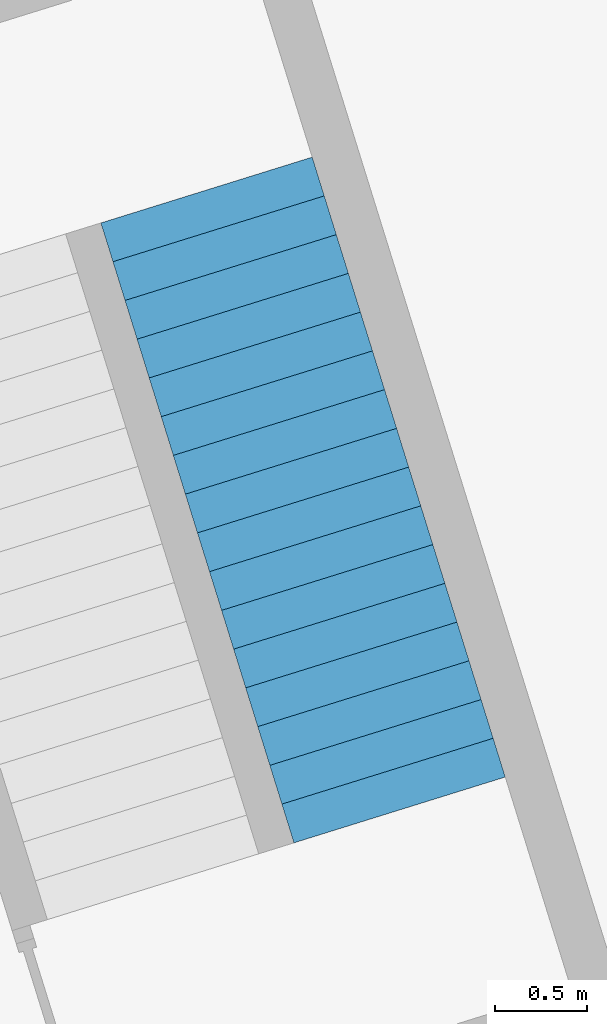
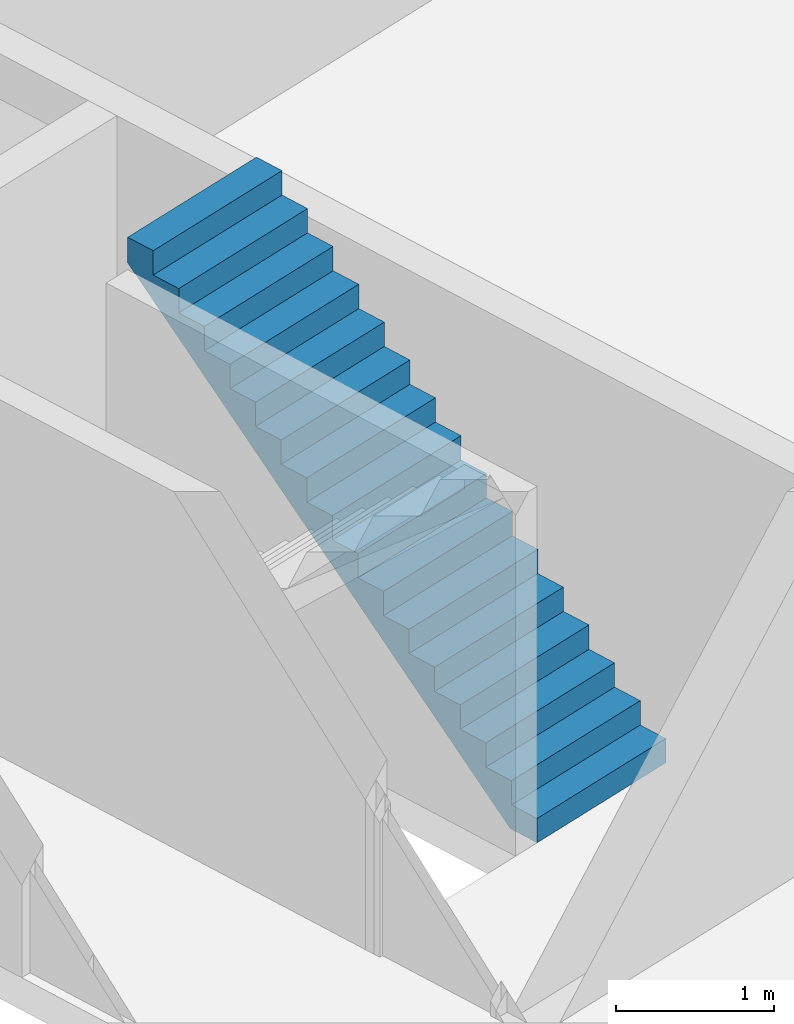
# One storey, part 4 of 4: 1 stair flight, 1 element without a shape of its own.
"""IFC4 building model written with IfcOpenShell, lengths in metres."""

from ifc_helpers import new_model, entity, si_unit, converted_unit, direction, frame, origin, place, context, subcontext, project, spatial, polygons, material, type_object, element, aggregate, save


model = new_model("IFC4")

# Units and contexts
model_context = context("Model", 3, precision=1e-05, world=origin(), true_north=direction((6.12323399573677e-17, 1.0)))
body_context = subcontext(model_context, "Body", "Model", "MODEL_VIEW")
ifc_project = project(units=[si_unit("LENGTHUNIT", "METRE"), si_unit("AREAUNIT", "SQUARE_METRE"), si_unit("VOLUMEUNIT", "CUBIC_METRE"), converted_unit("PLANEANGLEUNIT", "DEGREE", entity("IfcPlaneAngleMeasure", 0.0174532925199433), si_unit("PLANEANGLEUNIT", "RADIAN"), dimensions=[0, 0, 0, 0, 0, 0, 0])], contexts=[model_context])

# Site, building, storey
site_placement = place(None, frame((13.1347999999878, 11.9886000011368, 0.0), z_axis=(0.0, 0.0, 1.0), x_axis=(0.954770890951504, 0.297342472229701, 0.0)))
site = spatial("IfcSite", under=ifc_project, at=site_placement, Name="Schiehaven", CompositionType="ELEMENT")
building_placement = place(site_placement, origin())
building = spatial("IfcBuilding", under=site, at=building_placement, Name="VORM huis", CompositionType="ELEMENT")
storey_placement = place(building_placement, frame((0.0, 0.0, 6.9)))
storey = spatial("IfcBuildingStorey", under=building, at=storey_placement, Name="02 tweede verdieping", CompositionType="ELEMENT", Elevation=6.9)

# Stair, stair flight
stair_type = type_object("IfcStairType", Name="Trap", PredefinedType="STRAIGHT_RUN_STAIR")
stair_placement = place(storey_placement, origin())
stair = element("IfcStair", 1, at=stair_placement, inside=storey, type_object=stair_type, Name="Hoofdtrap", ObjectType="Trap", PredefinedType="STRAIGHT_RUN_STAIR")
ifc_material = material(Name="beton_gewapend_prefab-element", Category="Miscellaneous")
stair_flight_type = type_object("IfcStairFlightType", Name="Monolithic Run:NLRS_24_STRR_trap-beton prefab-monolithisch-recht_gen_rsf", PredefinedType="STRAIGHT")
stair_flight_placement = place(stair_placement, frame((18.6750000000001, 15.29, 0.0)))
stair_flight = element("IfcStairFlight", 2, at=stair_flight_placement, type_object=stair_flight_type, material=ifc_material, Name="Hoofdtrap Run 1", ObjectType="Monolithic Run:NLRS_24_STRR_trap-beton prefab-monolithisch-recht_gen_rsf", PredefinedType="STRAIGHT", context=body_context, shape_type="Tessellation", body=[
    polygons([(3.5527136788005e-15, 0.219999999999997, 0.1875), (0.0, -1.77635683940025e-15, 0.1875), (1.2, -1.77635683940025e-15, 0.1875), (1.2, 0.219999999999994, 0.1875), (3.5527136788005e-15, 0.220000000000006, 1.77635683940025e-15), (0.0, -1.77635683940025e-15, 1.77635683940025e-15), (1.2, -1.77635683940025e-15, 1.77635683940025e-15), (1.2, 0.219999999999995, 1.77635683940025e-15), (3.5527136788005e-15, 0.44, 0.375000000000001), (0.0, 0.219999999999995, 0.375000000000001), (1.2, 0.219999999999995, 0.375000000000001), (1.2, 0.439999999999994, 0.375000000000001), (3.5527136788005e-15, 0.44, 0.177912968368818), (3.5527136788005e-15, 0.231248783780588, 1.77635683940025e-15), (1.2, 0.231248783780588, 1.77635683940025e-15), (1.2, 0.439999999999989, 0.177912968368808), (3.5527136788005e-15, 0.659999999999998, 0.5625), (3.5527136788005e-15, 0.44, 0.5625), (1.20000000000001, 0.44, 0.5625), (1.20000000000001, 0.659999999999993, 0.5625), (7.105427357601e-15, 0.660000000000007, 0.365412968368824), (1.20000000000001, 0.659999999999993, 0.365412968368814), (3.5527136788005e-15, 0.880000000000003, 0.750000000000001), (3.5527136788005e-15, 0.659999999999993, 0.750000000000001), (1.20000000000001, 0.659999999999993, 0.750000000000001), (1.20000000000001, 0.879999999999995, 0.750000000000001), (7.105427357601e-15, 0.880000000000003, 0.55291296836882), (1.20000000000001, 0.879999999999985, 0.552912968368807), (7.105427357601e-15, 1.1, 0.937500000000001), (7.105427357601e-15, 0.880000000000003, 0.937500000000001), (1.20000000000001, 0.880000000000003, 0.937500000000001), (1.20000000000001, 1.09999999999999, 0.937500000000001), (7.105427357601e-15, 1.10000000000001, 0.740412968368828), (1.20000000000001, 1.1, 0.740412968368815), (7.105427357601e-15, 1.32, 1.125), (7.105427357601e-15, 1.09999999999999, 1.125), (1.20000000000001, 1.09999999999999, 1.125), (1.20000000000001, 1.31999999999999, 1.125), (7.105427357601e-15, 1.32, 0.92791296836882), (1.20000000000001, 1.31999999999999, 0.927912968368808), (1.06581410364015e-14, 1.54, 1.3125), (7.105427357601e-15, 1.32, 1.3125), (1.20000000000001, 1.32, 1.3125), (1.20000000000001, 1.54, 1.3125), (1.06581410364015e-14, 1.54000000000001, 1.11541296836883), (1.20000000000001, 1.54, 1.11541296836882), (1.06581410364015e-14, 1.76, 1.5), (7.105427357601e-15, 1.54, 1.5), (1.20000000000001, 1.54, 1.5), (1.20000000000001, 1.75999999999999, 1.5), (1.06581410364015e-14, 1.76, 1.30291296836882), (1.20000000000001, 1.75999999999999, 1.30291296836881), (1.06581410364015e-14, 1.98, 1.6875), (1.06581410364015e-14, 1.76, 1.6875), (1.20000000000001, 1.76, 1.6875), (1.20000000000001, 1.97999999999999, 1.6875), (1.06581410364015e-14, 1.98000000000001, 1.49041296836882), (1.20000000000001, 1.98, 1.49041296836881), (1.06581410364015e-14, 2.2, 1.875), (1.06581410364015e-14, 1.97999999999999, 1.875), (1.20000000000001, 1.97999999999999, 1.875), (1.20000000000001, 2.19999999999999, 1.875), (1.06581410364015e-14, 2.2, 1.67791296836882), (1.20000000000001, 2.19999999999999, 1.67791296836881), (1.4210854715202e-14, 2.42, 2.0625), (1.06581410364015e-14, 2.2, 2.0625), (1.20000000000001, 2.2, 2.0625), (1.20000000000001, 2.41999999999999, 2.0625), (1.06581410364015e-14, 2.42000000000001, 1.86541296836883), (1.20000000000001, 2.42, 1.86541296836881), (1.4210854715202e-14, 2.64, 2.25), (1.06581410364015e-14, 2.41999999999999, 2.25), (1.20000000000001, 2.41999999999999, 2.25), (1.20000000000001, 2.63999999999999, 2.25), (1.06581410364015e-14, 2.64, 2.05291296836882), (1.20000000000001, 2.63999999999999, 2.05291296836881), (1.4210854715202e-14, 2.86, 2.4375), (1.06581410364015e-14, 2.64, 2.4375), (1.20000000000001, 2.64, 2.4375), (1.20000000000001, 2.85999999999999, 2.4375), (1.4210854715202e-14, 2.86000000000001, 2.24041296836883), (1.20000000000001, 2.86, 2.24041296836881), (1.4210854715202e-14, 3.08, 2.625), (1.06581410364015e-14, 2.85999999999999, 2.625), (1.20000000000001, 2.85999999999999, 2.625), (1.20000000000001, 3.07999999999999, 2.625), (1.4210854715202e-14, 3.08, 2.42791296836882), (1.20000000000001, 3.07999999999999, 2.42791296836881), (1.77635683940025e-14, 3.3, 2.8125), (1.4210854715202e-14, 3.08, 2.8125), (1.20000000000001, 3.08, 2.8125), (1.20000000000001, 3.29999999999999, 2.8125), (1.77635683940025e-14, 3.30000000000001, 2.61541296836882), (1.20000000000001, 3.29999999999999, 2.61541296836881), (1.77635683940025e-14, 3.52, 3.0), (1.4210854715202e-14, 3.29999999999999, 3.0), (1.20000000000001, 3.29999999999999, 3.0), (1.20000000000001, 3.51999999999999, 3.0), (1.4210854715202e-14, 3.52, 2.80291296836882), (1.20000000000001, 3.51999999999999, 2.80291296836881)], [[[1, 2, 3, 4]], [[2, 1, 5, 6]], [[3, 2, 6, 7]], [[4, 3, 7, 8]], [[9, 10, 11, 12]], [[5, 1, 10, 9, 13, 14]], [[1, 4, 11, 10]], [[4, 8, 15, 16, 12, 11]], [[17, 18, 19, 20]], [[18, 17, 21, 13, 9]], [[9, 12, 19, 18]], [[20, 19, 12, 16, 22]], [[23, 24, 25, 26]], [[24, 23, 27, 21, 17]], [[17, 20, 25, 24]], [[26, 25, 20, 22, 28]], [[29, 30, 31, 32]], [[30, 29, 33, 27, 23]], [[23, 26, 31, 30]], [[32, 31, 26, 28, 34]], [[35, 36, 37, 38]], [[36, 35, 39, 33, 29]], [[29, 32, 37, 36]], [[38, 37, 32, 34, 40]], [[41, 42, 43, 44]], [[42, 41, 45, 39, 35]], [[35, 38, 43, 42]], [[44, 43, 38, 40, 46]], [[47, 48, 49, 50]], [[48, 47, 51, 45, 41]], [[41, 44, 49, 48]], [[50, 49, 44, 46, 52]], [[53, 54, 55, 56]], [[54, 53, 57, 51, 47]], [[47, 50, 55, 54]], [[56, 55, 50, 52, 58]], [[59, 60, 61, 62]], [[60, 59, 63, 57, 53]], [[53, 56, 61, 60]], [[62, 61, 56, 58, 64]], [[65, 66, 67, 68]], [[66, 65, 69, 63, 59]], [[59, 62, 67, 66]], [[68, 67, 62, 64, 70]], [[71, 72, 73, 74]], [[72, 71, 75, 69, 65]], [[65, 68, 73, 72]], [[74, 73, 68, 70, 76]], [[77, 78, 79, 80]], [[78, 77, 81, 75, 71]], [[71, 74, 79, 78]], [[80, 79, 74, 76, 82]], [[83, 84, 85, 86]], [[84, 83, 87, 81, 77]], [[77, 80, 85, 84]], [[86, 85, 80, 82, 88]], [[89, 90, 91, 92]], [[90, 89, 93, 87, 83]], [[83, 86, 91, 90]], [[92, 91, 86, 88, 94]], [[95, 96, 97, 98]], [[96, 95, 99, 93, 89]], [[89, 92, 97, 96]], [[98, 97, 92, 94, 100]], [[95, 98, 100, 99]], [[6, 5, 14, 15, 8, 7]], [[15, 14, 13, 21, 27, 33, 39, 45, 51, 57, 63, 69, 75, 81, 87, 93, 99, 100, 94, 88, 82, 76, 70, 64, 58, 52, 46, 40, 34, 28, 22, 16]]], closed=True),
])
aggregate(stair, [stair_flight])

save(model, "model.ifc")
